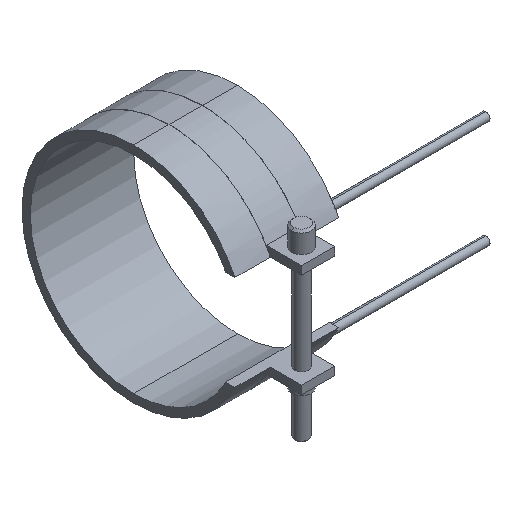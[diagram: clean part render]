
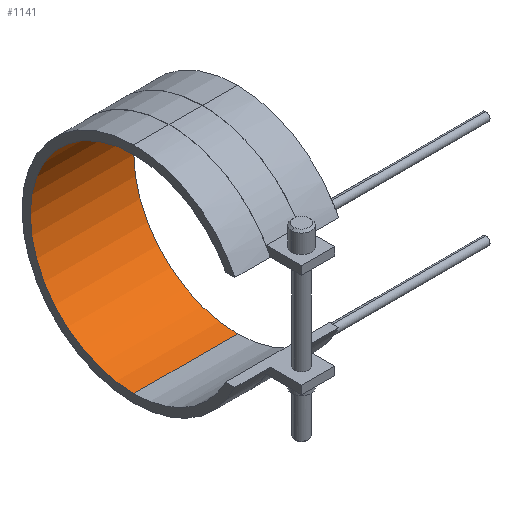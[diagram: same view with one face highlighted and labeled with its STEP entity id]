
A CAD part, isometric view. The second image highlights one B-rep face of the part: STEP entity #1141.
In plain terms, the highlighted cylindrical face has radius 50 mm (diameter 100 mm), a partial arc.
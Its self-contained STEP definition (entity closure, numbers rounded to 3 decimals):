
#822=CARTESIAN_POINT('Vertex',(-25.,0.,-50.)) ;
#829=CARTESIAN_POINT('Vertex',(25.,0.,-50.)) ;
#832=CARTESIAN_POINT('Line Origine',(25.,0.,-50.)) ;
#850=CARTESIAN_POINT('Axis2P3D Location',(-25.,0.,0.)) ;
#854=CARTESIAN_POINT('Vertex',(-25.,0.,50.)) ;
#911=CARTESIAN_POINT('Vertex',(25.,0.,50.)) ;
#921=CARTESIAN_POINT('Line Origine',(25.,0.,50.)) ;
#1012=CARTESIAN_POINT('Axis2P3D Location',(25.,0.,0.)) ;
#1130=CARTESIAN_POINT('Axis2P3D Location',(25.,0.,0.)) ;
#833=DIRECTION('Vector Direction',(1.,0.,0.)) ;
#851=DIRECTION('Axis2P3D Direction',(1.,0.,0.)) ;
#922=DIRECTION('Vector Direction',(1.,0.,0.)) ;
#1013=DIRECTION('Axis2P3D Direction',(1.,0.,0.)) ;
#1131=DIRECTION('Axis2P3D Direction',(1.,0.,-0.)) ;
#1132=DIRECTION('Axis2P3D XDirection',(0.,0.,-1.)) ;
#852=AXIS2_PLACEMENT_3D('Circle Axis2P3D',#850,#851,$) ;
#1014=AXIS2_PLACEMENT_3D('Circle Axis2P3D',#1012,#1013,$) ;
#1133=AXIS2_PLACEMENT_3D('Cylinder Axis2P3D',#1130,#1131,#1132) ;
#1136=ORIENTED_EDGE('',*,*,#1016,.T.) ;
#1137=ORIENTED_EDGE('',*,*,#925,.T.) ;
#1138=ORIENTED_EDGE('',*,*,#856,.F.) ;
#1139=ORIENTED_EDGE('',*,*,#836,.T.) ;
#834=VECTOR('Line Direction',#833,1.) ;
#923=VECTOR('Line Direction',#922,1.) ;
#1141=ADVANCED_FACE('14100050',(#1140),#1134,.F.) ;
#853=CIRCLE('generated circle',#852,50.) ;
#1015=CIRCLE('generated circle',#1014,50.) ;
#1134=CYLINDRICAL_SURFACE('generated cylinder',#1133,50.) ;
#836=EDGE_CURVE('',#823,#830,#835,.T.) ;
#856=EDGE_CURVE('',#823,#855,#853,.T.) ;
#925=EDGE_CURVE('',#912,#855,#924,.F.) ;
#1016=EDGE_CURVE('',#830,#912,#1015,.T.) ;
#1135=EDGE_LOOP('',(#1136,#1137,#1138,#1139)) ;
#1140=FACE_OUTER_BOUND('',#1135,.T.) ;
#835=LINE('Line',#832,#834) ;
#924=LINE('Line',#921,#923) ;
#823=VERTEX_POINT('',#822) ;
#830=VERTEX_POINT('',#829) ;
#855=VERTEX_POINT('',#854) ;
#912=VERTEX_POINT('',#911) ;
